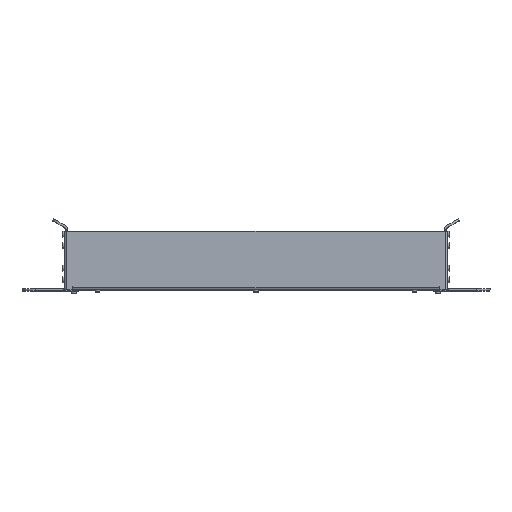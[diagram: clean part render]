
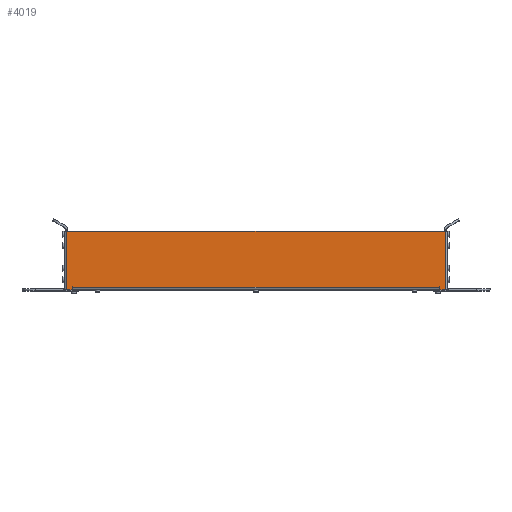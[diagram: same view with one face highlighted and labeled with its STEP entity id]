
A CAD part, top view. The second image highlights one B-rep face of the part: STEP entity #4019.
In plain terms, the highlighted planar face has unit normal (0, 0, 1).
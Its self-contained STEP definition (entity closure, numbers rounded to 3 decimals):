
#112 = VECTOR ( 'NONE', #6086, 1000. ) ;
#160 = DIRECTION ( 'NONE',  ( 1., 0., 0. ) ) ;
#637 = FACE_OUTER_BOUND ( 'NONE', #12977, .T. ) ;
#650 = DIRECTION ( 'NONE',  ( 0., -1., 0. ) ) ;
#669 = CARTESIAN_POINT ( 'NONE',  ( -3., 67., 0. ) ) ;
#746 = EDGE_CURVE ( 'NONE', #8473, #9512, #11929, .T. ) ;
#1232 = EDGE_CURVE ( 'NONE', #6648, #5482, #12876, .T. ) ;
#1525 = AXIS2_PLACEMENT_3D ( 'NONE', #11828, #4963, #12984 ) ;
#1642 = AXIS2_PLACEMENT_3D ( 'NONE', #9744, #2843, #10896 ) ;
#2225 = VERTEX_POINT ( 'NONE', #8316 ) ;
#2468 = CARTESIAN_POINT ( 'NONE',  ( -9.75, 3.5, 0. ) ) ;
#2550 = CARTESIAN_POINT ( 'NONE',  ( -9.5, 0.5, 0. ) ) ;
#2680 = VECTOR ( 'NONE', #3895, 1000. ) ;
#2706 = CARTESIAN_POINT ( 'NONE',  ( -433., 0., 0. ) ) ;
#2711 = VECTOR ( 'NONE', #650, 1000. ) ;
#2734 = CARTESIAN_POINT ( 'NONE',  ( -431., 67., 0. ) ) ;
#2790 = PLANE ( 'NONE',  #11862 ) ;
#2843 = DIRECTION ( 'NONE',  ( 0., 0., 1. ) ) ;
#2849 = VERTEX_POINT ( 'NONE', #4775 ) ;
#2852 = VECTOR ( 'NONE', #4371, 1000. ) ;
#3390 = ORIENTED_EDGE ( 'NONE', *, *, #14629, .T. ) ;
#3621 = LINE ( 'NONE', #6359, #5953 ) ;
#3645 = DIRECTION ( 'NONE',  ( 1., 0., 0. ) ) ;
#3659 = ORIENTED_EDGE ( 'NONE', *, *, #1232, .T. ) ;
#3895 = DIRECTION ( 'NONE',  ( -1., 0., 0. ) ) ;
#3975 = LINE ( 'NONE', #6958, #9372 ) ;
#4019 = ADVANCED_FACE ( 'NONE', ( #637 ), #2790, .T. ) ;
#4108 = AXIS2_PLACEMENT_3D ( 'NONE', #13879, #7017, #160 ) ;
#4310 = CARTESIAN_POINT ( 'NONE',  ( -10., 0., 0. ) ) ;
#4371 = DIRECTION ( 'NONE',  ( 0., 1., 0. ) ) ;
#4653 = VECTOR ( 'NONE', #13786, 1000. ) ;
#4775 = CARTESIAN_POINT ( 'NONE',  ( -427., 0., 0. ) ) ;
#4963 = DIRECTION ( 'NONE',  ( 0., 0., -1. ) ) ;
#5021 = VECTOR ( 'NONE', #8914, 1000. ) ;
#5041 = EDGE_CURVE ( 'NONE', #5961, #2849, #3621, .T. ) ;
#5120 = DIRECTION ( 'NONE',  ( 1., 0., 0. ) ) ;
#5317 = DIRECTION ( 'NONE',  ( 1., 0., 0. ) ) ;
#5421 = CARTESIAN_POINT ( 'NONE',  ( -426., 3., 0. ) ) ;
#5482 = VERTEX_POINT ( 'NONE', #9822 ) ;
#5487 = ORIENTED_EDGE ( 'NONE', *, *, #5041, .T. ) ;
#5551 = CIRCLE ( 'NONE', #4108, 0.5 ) ;
#5789 = LINE ( 'NONE', #7471, #2711 ) ;
#5950 = CIRCLE ( 'NONE', #6763, 0.25 ) ;
#5953 = VECTOR ( 'NONE', #8887, 1000. ) ;
#5961 = VERTEX_POINT ( 'NONE', #2706 ) ;
#6040 = CARTESIAN_POINT ( 'NONE',  ( -426., 3., 0. ) ) ;
#6086 = DIRECTION ( 'NONE',  ( 0., 1., 0. ) ) ;
#6093 = ORIENTED_EDGE ( 'NONE', *, *, #9991, .T. ) ;
#6359 = CARTESIAN_POINT ( 'NONE',  ( -431., 0., 0. ) ) ;
#6454 = CIRCLE ( 'NONE', #1525, 0.25 ) ;
#6622 = DIRECTION ( 'NONE',  ( 0., -1., 0. ) ) ;
#6648 = VERTEX_POINT ( 'NONE', #6040 ) ;
#6763 = AXIS2_PLACEMENT_3D ( 'NONE', #2468, #10525, #3645 ) ;
#6900 = ORIENTED_EDGE ( 'NONE', *, *, #12145, .T. ) ;
#6937 = CARTESIAN_POINT ( 'NONE',  ( -3., 0., 0. ) ) ;
#6958 = CARTESIAN_POINT ( 'NONE',  ( -426., 0., 0. ) ) ;
#7017 = DIRECTION ( 'NONE',  ( 0., 0., 1. ) ) ;
#7060 = VERTEX_POINT ( 'NONE', #13747 ) ;
#7091 = EDGE_CURVE ( 'NONE', #2225, #13686, #13452, .T. ) ;
#7227 = ORIENTED_EDGE ( 'NONE', *, *, #8333, .T. ) ;
#7410 = ORIENTED_EDGE ( 'NONE', *, *, #7728, .T. ) ;
#7471 = CARTESIAN_POINT ( 'NONE',  ( -433., 67., 0. ) ) ;
#7655 = CARTESIAN_POINT ( 'NONE',  ( -9.5, 3.5, 0. ) ) ;
#7728 = EDGE_CURVE ( 'NONE', #12100, #8980, #5551, .T. ) ;
#7881 = ORIENTED_EDGE ( 'NONE', *, *, #14813, .T. ) ;
#8097 = LINE ( 'NONE', #12302, #5021 ) ;
#8135 = DIRECTION ( 'NONE',  ( 0., -1., 0. ) ) ;
#8316 = CARTESIAN_POINT ( 'NONE',  ( -3., 0., 0. ) ) ;
#8333 = EDGE_CURVE ( 'NONE', #13686, #7060, #13817, .T. ) ;
#8473 = VERTEX_POINT ( 'NONE', #12221 ) ;
#8887 = DIRECTION ( 'NONE',  ( 1., 0., 0. ) ) ;
#8914 = DIRECTION ( 'NONE',  ( 1., 0., 0. ) ) ;
#8980 = VERTEX_POINT ( 'NONE', #14351 ) ;
#8995 = LINE ( 'NONE', #4310, #2852 ) ;
#9372 = VECTOR ( 'NONE', #8135, 1000. ) ;
#9512 = VERTEX_POINT ( 'NONE', #11589 ) ;
#9744 = CARTESIAN_POINT ( 'NONE',  ( -427., 0.5, 0. ) ) ;
#9822 = CARTESIAN_POINT ( 'NONE',  ( -10., 3., 0. ) ) ;
#9991 = EDGE_CURVE ( 'NONE', #12764, #6648, #3975, .T. ) ;
#10035 = EDGE_CURVE ( 'NONE', #12082, #10860, #5950, .T. ) ;
#10215 = EDGE_CURVE ( 'NONE', #7060, #5961, #5789, .T. ) ;
#10525 = DIRECTION ( 'NONE',  ( 0., 0., -1. ) ) ;
#10849 = CARTESIAN_POINT ( 'NONE',  ( -218., 0., 0. ) ) ;
#10860 = VERTEX_POINT ( 'NONE', #7655 ) ;
#10896 = DIRECTION ( 'NONE',  ( 1., 0., 0. ) ) ;
#10917 = CARTESIAN_POINT ( 'NONE',  ( -426., 3.5, 0. ) ) ;
#10921 = EDGE_CURVE ( 'NONE', #5482, #12082, #8995, .T. ) ;
#11149 = CIRCLE ( 'NONE', #1642, 0.5 ) ;
#11315 = LINE ( 'NONE', #13491, #14348 ) ;
#11535 = ORIENTED_EDGE ( 'NONE', *, *, #7091, .T. ) ;
#11589 = CARTESIAN_POINT ( 'NONE',  ( -426.5, 3.5, 0. ) ) ;
#11676 = CARTESIAN_POINT ( 'NONE',  ( -10., 3.5, 0. ) ) ;
#11782 = EDGE_CURVE ( 'NONE', #8980, #2225, #8097, .T. ) ;
#11828 = CARTESIAN_POINT ( 'NONE',  ( -426.25, 3.5, 0. ) ) ;
#11862 = AXIS2_PLACEMENT_3D ( 'NONE', #10849, #11980, #5120 ) ;
#11929 = LINE ( 'NONE', #14113, #112 ) ;
#11980 = DIRECTION ( 'NONE',  ( 0., 0., 1. ) ) ;
#12082 = VERTEX_POINT ( 'NONE', #11676 ) ;
#12100 = VERTEX_POINT ( 'NONE', #2550 ) ;
#12145 = EDGE_CURVE ( 'NONE', #9512, #12764, #6454, .T. ) ;
#12221 = CARTESIAN_POINT ( 'NONE',  ( -426.5, 0.5, 0. ) ) ;
#12302 = CARTESIAN_POINT ( 'NONE',  ( -431., 0., 0. ) ) ;
#12415 = ORIENTED_EDGE ( 'NONE', *, *, #11782, .T. ) ;
#12495 = ORIENTED_EDGE ( 'NONE', *, *, #10921, .T. ) ;
#12518 = VECTOR ( 'NONE', #5317, 1000. ) ;
#12764 = VERTEX_POINT ( 'NONE', #10917 ) ;
#12876 = LINE ( 'NONE', #5421, #12518 ) ;
#12977 = EDGE_LOOP ( 'NONE', ( #5487, #3390, #14026, #6900, #6093, #3659, #12495, #13481, #7881, #7410, #12415, #11535, #7227, #13180 ) ) ;
#12984 = DIRECTION ( 'NONE',  ( 1., 0., 0. ) ) ;
#13180 = ORIENTED_EDGE ( 'NONE', *, *, #10215, .T. ) ;
#13452 = LINE ( 'NONE', #6937, #4653 ) ;
#13481 = ORIENTED_EDGE ( 'NONE', *, *, #10035, .T. ) ;
#13491 = CARTESIAN_POINT ( 'NONE',  ( -9.5, 0., 0. ) ) ;
#13686 = VERTEX_POINT ( 'NONE', #669 ) ;
#13747 = CARTESIAN_POINT ( 'NONE',  ( -433., 67., 0. ) ) ;
#13786 = DIRECTION ( 'NONE',  ( 0., 1., 0. ) ) ;
#13817 = LINE ( 'NONE', #2734, #2680 ) ;
#13879 = CARTESIAN_POINT ( 'NONE',  ( -9., 0.5, 0. ) ) ;
#14026 = ORIENTED_EDGE ( 'NONE', *, *, #746, .T. ) ;
#14113 = CARTESIAN_POINT ( 'NONE',  ( -426.5, 0., 0. ) ) ;
#14348 = VECTOR ( 'NONE', #6622, 1000. ) ;
#14351 = CARTESIAN_POINT ( 'NONE',  ( -9., 0., 0. ) ) ;
#14629 = EDGE_CURVE ( 'NONE', #2849, #8473, #11149, .T. ) ;
#14813 = EDGE_CURVE ( 'NONE', #10860, #12100, #11315, .T. ) ;
